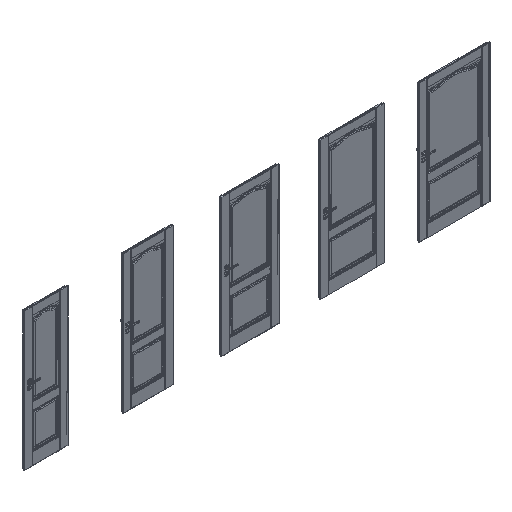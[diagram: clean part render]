
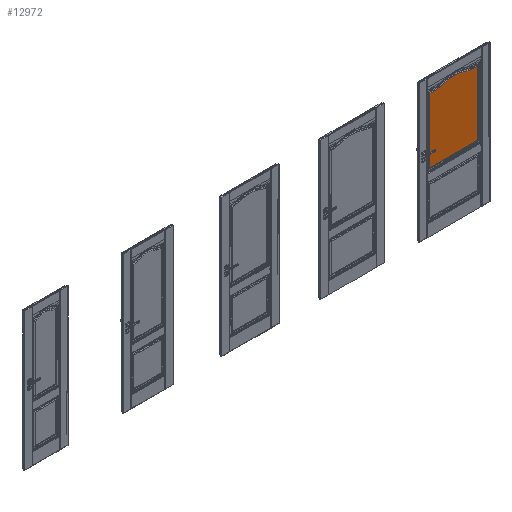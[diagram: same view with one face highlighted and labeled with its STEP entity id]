
A CAD part, isometric view. The second image highlights one B-rep face of the part: STEP entity #12972.
In plain terms, the highlighted planar face has unit normal (0, -1, 0).
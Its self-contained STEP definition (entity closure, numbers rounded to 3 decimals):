
#4152=B_SPLINE_CURVE_WITH_KNOTS('',3,(#159974,#159975,#159976,#159977),
 .UNSPECIFIED.,.F.,.F.,(4,4),(0.,1.),.UNSPECIFIED.);
#4158=B_SPLINE_CURVE_WITH_KNOTS('',3,(#160106,#160107,#160108,#160109),
 .UNSPECIFIED.,.F.,.F.,(4,4),(0.,1.),.UNSPECIFIED.);
#4164=B_SPLINE_CURVE_WITH_KNOTS('',3,(#160311,#160312,#160313,#160314),
 .UNSPECIFIED.,.F.,.F.,(4,4),(0.,1.),.UNSPECIFIED.);
#4169=B_SPLINE_CURVE_WITH_KNOTS('',3,(#160394,#160395,#160396,#160397),
 .UNSPECIFIED.,.F.,.F.,(4,4),(0.,1.),.UNSPECIFIED.);
#4173=B_SPLINE_CURVE_WITH_KNOTS('',3,(#160444,#160445,#160446,#160447),
 .UNSPECIFIED.,.F.,.F.,(4,4),(0.,1.),.UNSPECIFIED.);
#4179=B_SPLINE_CURVE_WITH_KNOTS('',3,(#160601,#160602,#160603,#160604),
 .UNSPECIFIED.,.F.,.F.,(4,4),(0.,1.),.UNSPECIFIED.);
#4185=B_SPLINE_CURVE_WITH_KNOTS('',3,(#160748,#160749,#160750,#160751),
 .UNSPECIFIED.,.F.,.F.,(4,4),(0.,1.),.UNSPECIFIED.);
#4191=B_SPLINE_CURVE_WITH_KNOTS('',3,(#160883,#160884,#160885,#160886),
 .UNSPECIFIED.,.F.,.F.,(4,4),(0.,1.),.UNSPECIFIED.);
#12972=ADVANCED_FACE('',(#20220),#15750,.T.);
#15750=PLANE('',#91351);
#20220=FACE_OUTER_BOUND('',#25257,.T.);
#25257=EDGE_LOOP('',(#46642,#46643,#46644,#46645,#46646,#46647,#46648,#46649,
#46650,#46651,#46652));
#46642=ORIENTED_EDGE('',*,*,#69225,.F.);
#46643=ORIENTED_EDGE('',*,*,#69215,.F.);
#46644=ORIENTED_EDGE('',*,*,#69206,.F.);
#46645=ORIENTED_EDGE('',*,*,#69200,.F.);
#46646=ORIENTED_EDGE('',*,*,#69194,.F.);
#46647=ORIENTED_EDGE('',*,*,#69190,.F.);
#46648=ORIENTED_EDGE('',*,*,#69183,.F.);
#46649=ORIENTED_EDGE('',*,*,#69177,.F.);
#46650=ORIENTED_EDGE('',*,*,#69171,.F.);
#46651=ORIENTED_EDGE('',*,*,#69223,.T.);
#46652=ORIENTED_EDGE('',*,*,#69154,.F.);
#57526=VERTEX_POINT('',#159893);
#57527=VERTEX_POINT('',#159895);
#57538=VERTEX_POINT('',#159973);
#57539=VERTEX_POINT('',#159978);
#57542=VERTEX_POINT('',#160110);
#57545=VERTEX_POINT('',#160315);
#57549=VERTEX_POINT('',#160398);
#57551=VERTEX_POINT('',#160448);
#57554=VERTEX_POINT('',#160605);
#57557=VERTEX_POINT('',#160752);
#57562=VERTEX_POINT('',#160878);
#69154=EDGE_CURVE('',#57526,#57527,#77639,.T.);
#69171=EDGE_CURVE('',#57538,#57539,#4152,.T.);
#69177=EDGE_CURVE('',#57539,#57542,#4158,.T.);
#69183=EDGE_CURVE('',#57542,#57545,#4164,.T.);
#69190=EDGE_CURVE('',#57545,#57549,#4169,.T.);
#69194=EDGE_CURVE('',#57549,#57551,#4173,.T.);
#69200=EDGE_CURVE('',#57551,#57554,#4179,.T.);
#69206=EDGE_CURVE('',#57554,#57557,#4185,.T.);
#69215=EDGE_CURVE('',#57557,#57562,#4191,.T.);
#69223=EDGE_CURVE('',#57538,#57527,#77652,.T.);
#69225=EDGE_CURVE('',#57562,#57526,#77654,.T.);
#77639=LINE('',#159894,#85198);
#77652=LINE('',#160951,#85211);
#77654=LINE('',#160954,#85213);
#85198=VECTOR('',#108261,1.);
#85211=VECTOR('',#108308,1.);
#85213=VECTOR('',#108312,1.);
#91351=AXIS2_PLACEMENT_3D('',#160959,#108320,#108321);
#108261=DIRECTION('',(-1.,0.,0.));
#108308=DIRECTION('',(0.,0.,-1.));
#108312=DIRECTION('',(0.,0.,-1.));
#108320=DIRECTION('',(0.,-1.,0.));
#108321=DIRECTION('',(0.,0.,-1.));
#159893=CARTESIAN_POINT('',(6352.,-29.,861.5));
#159894=CARTESIAN_POINT('',(5400.,-29.,861.5));
#159895=CARTESIAN_POINT('',(5648.,-29.,861.5));
#159973=CARTESIAN_POINT('',(5648.,-29.,1806.5));
#159974=CARTESIAN_POINT('',(5648.,-29.,1806.5));
#159975=CARTESIAN_POINT('',(5664.434,-29.,1806.5));
#159976=CARTESIAN_POINT('',(5681.435,-29.,1806.5));
#159977=CARTESIAN_POINT('',(5699.003,-29.,1806.5));
#159978=CARTESIAN_POINT('',(5699.003,-29.,1806.5));
#160106=CARTESIAN_POINT('',(5699.003,-29.,1806.5));
#160107=CARTESIAN_POINT('',(5755.807,-29.,1810.487));
#160108=CARTESIAN_POINT('',(5811.653,-29.,1821.84));
#160109=CARTESIAN_POINT('',(5863.645,-29.,1839.97));
#160110=CARTESIAN_POINT('',(5863.645,-29.,1839.97));
#160311=CARTESIAN_POINT('',(5863.645,-29.,1839.97));
#160312=CARTESIAN_POINT('',(5906.061,-29.,1852.709));
#160313=CARTESIAN_POINT('',(5951.123,-29.,1859.354));
#160314=CARTESIAN_POINT('',(5996.08,-29.,1859.498));
#160315=CARTESIAN_POINT('',(5996.08,-29.,1859.498));
#160394=CARTESIAN_POINT('',(5996.08,-29.,1859.498));
#160395=CARTESIAN_POINT('',(5997.36,-29.,1859.498));
#160396=CARTESIAN_POINT('',(5998.667,-29.,1859.498));
#160397=CARTESIAN_POINT('',(6000.,-29.,1859.498));
#160398=CARTESIAN_POINT('',(6000.,-29.,1859.498));
#160444=CARTESIAN_POINT('',(6000.,-29.,1859.498));
#160445=CARTESIAN_POINT('',(6001.333,-29.,1859.498));
#160446=CARTESIAN_POINT('',(6002.64,-29.,1859.498));
#160447=CARTESIAN_POINT('',(6003.92,-29.,1859.498));
#160448=CARTESIAN_POINT('',(6003.92,-29.,1859.498));
#160601=CARTESIAN_POINT('',(6003.92,-29.,1859.498));
#160602=CARTESIAN_POINT('',(6048.877,-29.,1859.354));
#160603=CARTESIAN_POINT('',(6093.939,-29.,1852.709));
#160604=CARTESIAN_POINT('',(6136.355,-29.,1839.97));
#160605=CARTESIAN_POINT('',(6136.355,-29.,1839.97));
#160748=CARTESIAN_POINT('',(6136.355,-29.,1839.97));
#160749=CARTESIAN_POINT('',(6188.347,-29.,1821.84));
#160750=CARTESIAN_POINT('',(6244.193,-29.,1810.487));
#160751=CARTESIAN_POINT('',(6300.997,-29.,1806.5));
#160752=CARTESIAN_POINT('',(6300.997,-29.,1806.5));
#160878=CARTESIAN_POINT('',(6352.,-29.,1806.5));
#160883=CARTESIAN_POINT('',(6300.997,-29.,1806.5));
#160884=CARTESIAN_POINT('',(6318.565,-29.,1806.5));
#160885=CARTESIAN_POINT('',(6335.566,-29.,1806.5));
#160886=CARTESIAN_POINT('',(6352.,-29.,1806.5));
#160951=CARTESIAN_POINT('',(5648.,-29.,1909.5));
#160954=CARTESIAN_POINT('',(6352.,-29.,2009.5));
#160959=CARTESIAN_POINT('',(6000.,-29.,1909.5));
